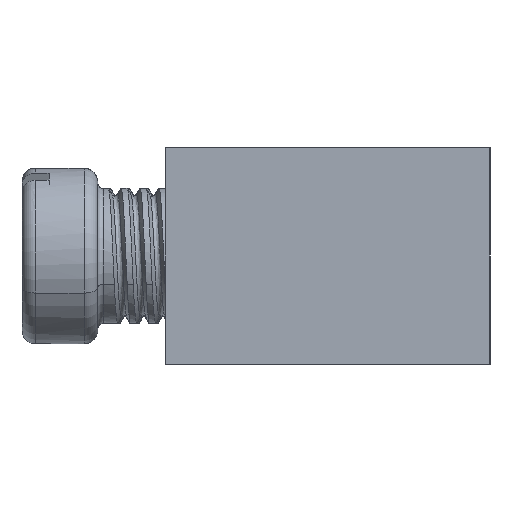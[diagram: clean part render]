
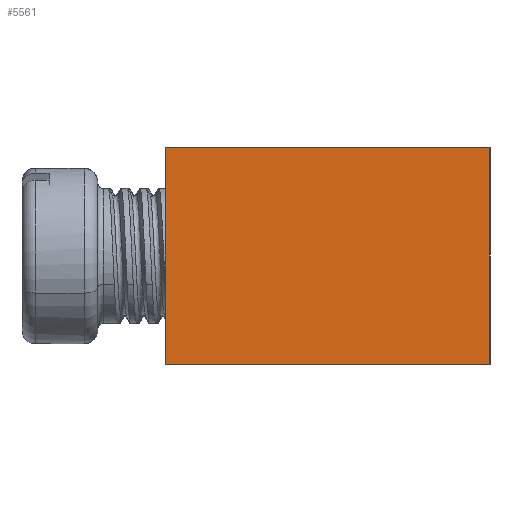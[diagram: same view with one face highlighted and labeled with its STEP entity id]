
A CAD part, left-side view. The second image highlights one B-rep face of the part: STEP entity #5561.
In plain terms, the highlighted planar face has unit normal (-1, 0, 0).
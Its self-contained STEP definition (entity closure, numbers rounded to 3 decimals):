
#34 = CARTESIAN_POINT ( 'NONE',  ( 0., 0., 0. ) ) ;
#119 = VECTOR ( 'NONE', #3930, 1000. ) ;
#308 = LINE ( 'NONE', #3316, #119 ) ;
#465 = CARTESIAN_POINT ( 'NONE',  ( 0., 12., 0. ) ) ;
#726 = LINE ( 'NONE', #34, #6966 ) ;
#862 = DIRECTION ( 'NONE',  ( 0., -1., 0. ) ) ;
#883 = VERTEX_POINT ( 'NONE', #2946 ) ;
#941 = CARTESIAN_POINT ( 'NONE',  ( 0., 12., -8. ) ) ;
#1424 = CARTESIAN_POINT ( 'NONE',  ( 0., 0., -8. ) ) ;
#1695 = ORIENTED_EDGE ( 'NONE', *, *, #1967, .F. ) ;
#1712 = EDGE_CURVE ( 'NONE', #6203, #6871, #726, .T. ) ;
#1803 = EDGE_LOOP ( 'NONE', ( #5893, #1695, #3648, #6492 ) ) ;
#1949 = DIRECTION ( 'NONE',  ( 0., -1., 0. ) ) ;
#1967 = EDGE_CURVE ( 'NONE', #5352, #6203, #3195, .T. ) ;
#2059 = DIRECTION ( 'NONE',  ( -1., 0., 0. ) ) ;
#2558 = FACE_OUTER_BOUND ( 'NONE', #1803, .T. ) ;
#2925 = EDGE_CURVE ( 'NONE', #883, #6871, #308, .T. ) ;
#2946 = CARTESIAN_POINT ( 'NONE',  ( 0., 0., -8. ) ) ;
#3072 = EDGE_CURVE ( 'NONE', #5352, #883, #4928, .T. ) ;
#3195 = LINE ( 'NONE', #941, #7882 ) ;
#3316 = CARTESIAN_POINT ( 'NONE',  ( 0., 0., -8. ) ) ;
#3648 = ORIENTED_EDGE ( 'NONE', *, *, #3072, .T. ) ;
#3718 = CARTESIAN_POINT ( 'NONE',  ( 0., 12., -8. ) ) ;
#3930 = DIRECTION ( 'NONE',  ( 0., 0., 1. ) ) ;
#4928 = LINE ( 'NONE', #7646, #6380 ) ;
#5330 = DIRECTION ( 'NONE',  ( 0., 0., 1. ) ) ;
#5352 = VERTEX_POINT ( 'NONE', #3718 ) ;
#5512 = AXIS2_PLACEMENT_3D ( 'NONE', #1424, #2059, #6416 ) ;
#5561 = ADVANCED_FACE ( 'NONE', ( #2558 ), #5789, .T. ) ;
#5789 = PLANE ( 'NONE',  #5512 ) ;
#5893 = ORIENTED_EDGE ( 'NONE', *, *, #1712, .F. ) ;
#6203 = VERTEX_POINT ( 'NONE', #465 ) ;
#6380 = VECTOR ( 'NONE', #862, 1000. ) ;
#6416 = DIRECTION ( 'NONE',  ( 0., 0., 1. ) ) ;
#6492 = ORIENTED_EDGE ( 'NONE', *, *, #2925, .T. ) ;
#6518 = CARTESIAN_POINT ( 'NONE',  ( 0., 0., 0. ) ) ;
#6871 = VERTEX_POINT ( 'NONE', #6518 ) ;
#6966 = VECTOR ( 'NONE', #1949, 1000. ) ;
#7646 = CARTESIAN_POINT ( 'NONE',  ( 0., 0., -8. ) ) ;
#7882 = VECTOR ( 'NONE', #5330, 1000. ) ;
